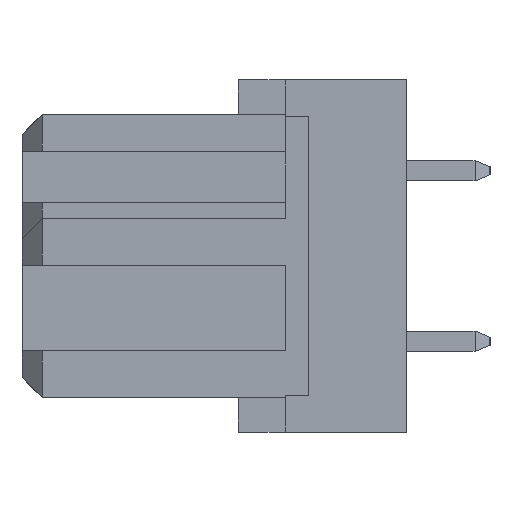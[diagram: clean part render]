
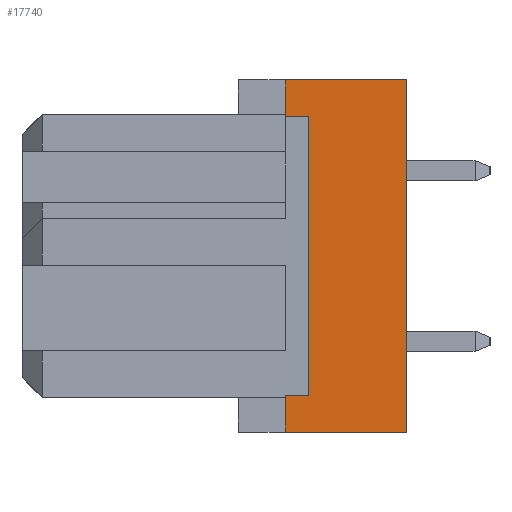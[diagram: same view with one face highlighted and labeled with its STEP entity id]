
A CAD part, left-side view. The second image highlights one B-rep face of the part: STEP entity #17740.
In plain terms, the highlighted planar face has unit normal (-1, 0, 0).
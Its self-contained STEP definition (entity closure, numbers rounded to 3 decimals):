
#14 = VECTOR ( 'NONE', #37300, 1000. ) ;
#15 = CARTESIAN_POINT ( 'NONE',  ( -27.5, 3.6, -5.25 ) ) ;
#74 = VECTOR ( 'NONE', #187, 1000. ) ;
#104 = AXIS2_PLACEMENT_3D ( 'NONE', #109, #209, #208 ) ;
#105 = LINE ( 'NONE', #188, #74 ) ;
#109 = CARTESIAN_POINT ( 'NONE',  ( -27.5, 5., -5.25 ) ) ;
#118 = DIRECTION ( 'NONE',  ( 0., 1., 0. ) ) ;
#119 = VECTOR ( 'NONE', #118, 1000. ) ;
#120 = CARTESIAN_POINT ( 'NONE',  ( -27.5, -9.848, 4.15 ) ) ;
#121 = LINE ( 'NONE', #120, #119 ) ;
#127 = PLANE ( 'NONE',  #104 ) ;
#159 = FACE_OUTER_BOUND ( 'NONE', #17636, .T. ) ;
#171 = CARTESIAN_POINT ( 'NONE',  ( -27.5, 2.9, 4.15 ) ) ;
#187 = DIRECTION ( 'NONE',  ( 0., 0., -1. ) ) ;
#188 = CARTESIAN_POINT ( 'NONE',  ( -27.5, 3.6, 4.15 ) ) ;
#195 = CARTESIAN_POINT ( 'NONE',  ( -27.5, 2.9, -4.15 ) ) ;
#208 = DIRECTION ( 'NONE',  ( 0., 0., -1. ) ) ;
#209 = DIRECTION ( 'NONE',  ( 1., 0., 0. ) ) ;
#1093 = CARTESIAN_POINT ( 'NONE',  ( -27.5, 0., -5.25 ) ) ;
#1128 = CARTESIAN_POINT ( 'NONE',  ( -27.5, 0., 5.25 ) ) ;
#1265 = DIRECTION ( 'NONE',  ( 0., 0., 1. ) ) ;
#1266 = VECTOR ( 'NONE', #1265, 1000. ) ;
#1267 = CARTESIAN_POINT ( 'NONE',  ( -27.5, 0., -5.25 ) ) ;
#1295 = LINE ( 'NONE', #1267, #1266 ) ;
#16800 = EDGE_CURVE ( 'NONE', #16812, #18128, #34892, .T. ) ;
#16812 = VERTEX_POINT ( 'NONE', #34921 ) ;
#17483 = EDGE_CURVE ( 'NONE', #17720, #17719, #36221, .T. ) ;
#17522 = ORIENTED_EDGE ( 'NONE', *, *, #17718, .F. ) ;
#17523 = VERTEX_POINT ( 'NONE', #36228 ) ;
#17524 = ORIENTED_EDGE ( 'NONE', *, *, #17686, .T. ) ;
#17578 = EDGE_CURVE ( 'NONE', #17719, #17603, #36555, .T. ) ;
#17603 = VERTEX_POINT ( 'NONE', #36540 ) ;
#17636 = EDGE_LOOP ( 'NONE', ( #17524, #17684, #17644, #17728, #17730, #17522, #17729, #17726 ) ) ;
#17644 = ORIENTED_EDGE ( 'NONE', *, *, #18200, .T. ) ;
#17683 = VERTEX_POINT ( 'NONE', #37304 ) ;
#17684 = ORIENTED_EDGE ( 'NONE', *, *, #17685, .T. ) ;
#17685 = EDGE_CURVE ( 'NONE', #17683, #18160, #37305, .T. ) ;
#17686 = EDGE_CURVE ( 'NONE', #17603, #17683, #37288, .T. ) ;
#17718 = EDGE_CURVE ( 'NONE', #17720, #17523, #121, .T. ) ;
#17719 = VERTEX_POINT ( 'NONE', #195 ) ;
#17720 = VERTEX_POINT ( 'NONE', #171 ) ;
#17726 = ORIENTED_EDGE ( 'NONE', *, *, #17578, .T. ) ;
#17727 = EDGE_CURVE ( 'NONE', #16812, #17523, #105, .T. ) ;
#17728 = ORIENTED_EDGE ( 'NONE', *, *, #16800, .F. ) ;
#17729 = ORIENTED_EDGE ( 'NONE', *, *, #17483, .T. ) ;
#17730 = ORIENTED_EDGE ( 'NONE', *, *, #17727, .T. ) ;
#17740 = ADVANCED_FACE ( 'NONE', ( #159 ), #127, .F. ) ;
#18128 = VERTEX_POINT ( 'NONE', #1128 ) ;
#18160 = VERTEX_POINT ( 'NONE', #1093 ) ;
#18200 = EDGE_CURVE ( 'NONE', #18160, #18128, #1295, .T. ) ;
#34882 = DIRECTION ( 'NONE',  ( 0., -1., 0. ) ) ;
#34890 = VECTOR ( 'NONE', #34882, 1000. ) ;
#34891 = CARTESIAN_POINT ( 'NONE',  ( -27.5, 5., 5.25 ) ) ;
#34892 = LINE ( 'NONE', #34891, #34890 ) ;
#34921 = CARTESIAN_POINT ( 'NONE',  ( -27.5, 3.6, 5.25 ) ) ;
#36188 = DIRECTION ( 'NONE',  ( 0., 0., -1. ) ) ;
#36189 = VECTOR ( 'NONE', #36188, 1000. ) ;
#36220 = CARTESIAN_POINT ( 'NONE',  ( -27.5, 2.9, -4.15 ) ) ;
#36221 = LINE ( 'NONE', #36220, #36189 ) ;
#36228 = CARTESIAN_POINT ( 'NONE',  ( -27.5, 3.6, 4.15 ) ) ;
#36540 = CARTESIAN_POINT ( 'NONE',  ( -27.5, 3.6, -4.15 ) ) ;
#36554 = CARTESIAN_POINT ( 'NONE',  ( -27.5, -9.848, -4.15 ) ) ;
#36555 = LINE ( 'NONE', #36554, #36602 ) ;
#36600 = DIRECTION ( 'NONE',  ( 0., 1., 0. ) ) ;
#36602 = VECTOR ( 'NONE', #36600, 1000. ) ;
#37020 = DIRECTION ( 'NONE',  ( 0., -1., 0. ) ) ;
#37022 = VECTOR ( 'NONE', #37020, 1000. ) ;
#37288 = LINE ( 'NONE', #15, #14 ) ;
#37289 = CARTESIAN_POINT ( 'NONE',  ( -27.5, 5., -5.25 ) ) ;
#37300 = DIRECTION ( 'NONE',  ( 0., 0., -1. ) ) ;
#37304 = CARTESIAN_POINT ( 'NONE',  ( -27.5, 3.6, -5.25 ) ) ;
#37305 = LINE ( 'NONE', #37289, #37022 ) ;
